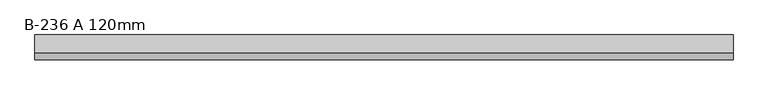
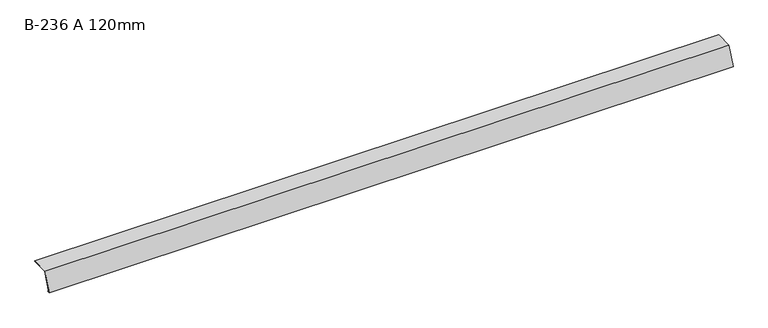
"""IFC4 building model written with IfcOpenShell, lengths in millimetres: proxy geometry, GROVIK_Flashing_Eaves : B-236 A 120mm."""

from ifc_helpers import new_model, si_unit, frame, origin, place, context, project, spatial, polyline, outline, extrude, source, transform, mapped, element, save


def b_236_a_120mm_6d98eb93(model_context):
    return source(origin(), model_context, "Body", "SweptSolid", [
        extrude(outline(polyline([(-0.6918582, 0.9880759), (-43.5778606, -110.7337801), (-33.8749034, -108.3145612), (-33.6329815, -109.2848569), (-45.1998595, -112.1688035), (-1.3837164, 1.9761518), (104.9491032, 3.8321981), (104.9665556, 2.8323504), (-0.6918582, 0.9880759)])), frame((0.0, 0.0, 0.0), z_axis=(1.0, 0.0, 0.0), x_axis=(0.0, 1.0, 0.0)), (0.0, 0.0, 1.0), 4200.0),
    ])


if __name__ == "__main__":
    model = new_model("IFC4")
    model_context = context("Model", 3, world=origin())
    ifc_project = project(units=[si_unit("LENGTHUNIT", "METRE", prefix="MILLI")], contexts=[model_context])
    site = spatial("IfcSite", under=ifc_project)
    building = spatial("IfcBuilding", under=site)
    placement = place(None, origin())
    b_236_a_120mm_shape = b_236_a_120mm_6d98eb93(model_context)
    element("IfcBuildingElementProxy", 1, Name="GROVIK_Flashing_Eaves : B-236 A 120mm", ObjectType="GROVIK_Flashing_Eaves : B-236 A 120mm", at=placement, inside=building, context=model_context, shape_type="MappedRepresentation", body=[
        mapped(b_236_a_120mm_shape, transform((0.0, 0.0, 0.0), x_axis=(1.0, 0.0, 0.0), y_axis=(0.0, 1.0, 0.0), z_axis=(0.0, 0.0, 1.0))),
    ])
    save(model, "model.ifc")
